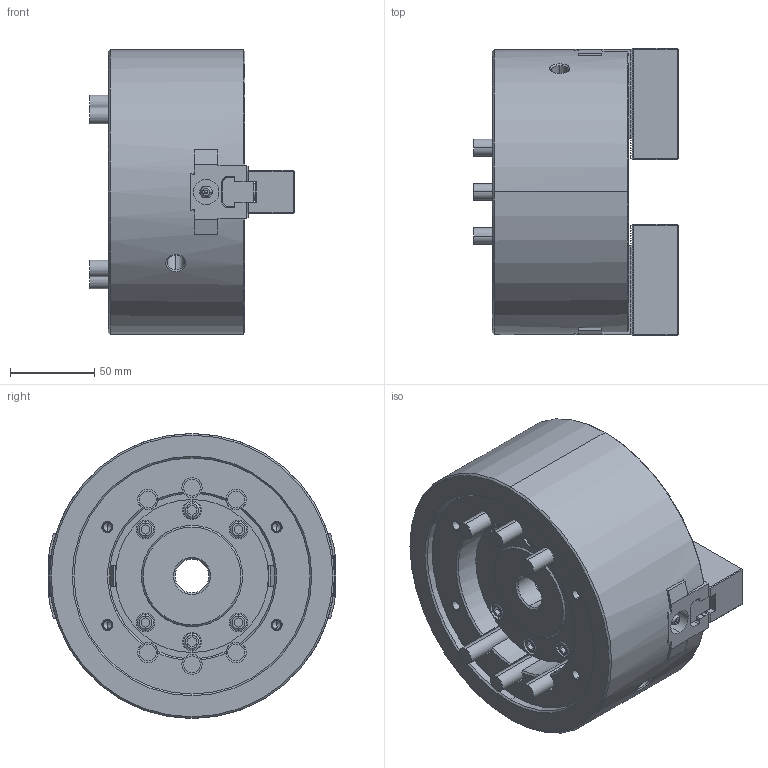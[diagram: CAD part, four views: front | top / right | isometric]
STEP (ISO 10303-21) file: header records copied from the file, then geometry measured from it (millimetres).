
FILE_DESCRIPTION (( 'STEP AP214' ), '1' );
FILE_NAME ('BT206_61P216125-7_UC.STEP', '2020-12-11T06:51:04', ( '' ), ( '' ), 'SwSTEP 2.0', 'SolidWorks 2017', '' );
FILE_SCHEMA (( 'AUTOMOTIVE_DESIGN' ));
Length unit declared in the file: millimetre
Products named in the file (14): BT206_BASE^61P216122-9_クミタテ; Bアナツキ M10×25; 61P321203-3_ソフトジョー; 61P447483-1_俿僫僢僩; BT206_61P216125-7_UC
Assembly tree (9 placements, depth 2):
  BT206_BASE^61P216122-9_クミタテ
  Bアナツキ M10×25
  Bアナツキ M10×25
  61P321203-3_ソフトジョー
  61P447483-1_俿僫僢僩
Bounding box: 121.2 x 170.51 x 169 mm (x, y, z)
Volume: 1611497.4 mm3; surface area: 201460 mm2
Topology: 9 solids, 19 shells, 2351 faces, 6434 edges, 4207 vertices
Faces by surface type: plane 1808, cylinder 257, cone 143, bspline 113, torus 22, sphere 8
Entity records: 65870 total; most frequent: CARTESIAN_POINT 16037, ORIENTED_EDGE 10710, DIRECTION 9512, EDGE_CURVE 5355, VECTOR 4226, LINE 4226, VERTEX_POINT 3507, AXIS2_PLACEMENT_3D 2643
